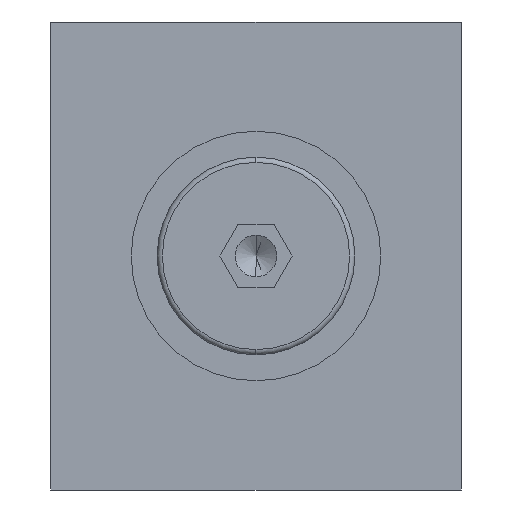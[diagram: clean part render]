
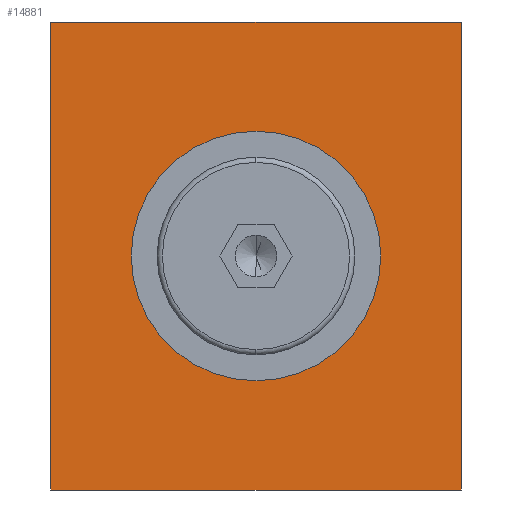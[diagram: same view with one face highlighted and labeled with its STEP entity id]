
A CAD part, left-side view. The second image highlights one B-rep face of the part: STEP entity #14881.
In plain terms, the highlighted planar face has unit normal (-1, 0, 0).
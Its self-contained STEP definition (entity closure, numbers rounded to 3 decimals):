
#116 = CARTESIAN_POINT ( 'NONE',  ( 0., 19.75, -22.5 ) ) ;
#220 = CARTESIAN_POINT ( 'NONE',  ( 0., 0., 12. ) ) ;
#393 = EDGE_CURVE ( 'NONE', #2130, #10465, #2268, .T. ) ;
#1250 = CARTESIAN_POINT ( 'NONE',  ( 0., 19.75, -22.5 ) ) ;
#1251 = ORIENTED_EDGE ( 'NONE', *, *, #18319, .F. ) ;
#1266 = VERTEX_POINT ( 'NONE', #3324 ) ;
#1679 = DIRECTION ( 'NONE',  ( 0., 0., 1. ) ) ;
#1683 = DIRECTION ( 'NONE',  ( -1., 0., 0. ) ) ;
#2105 = EDGE_LOOP ( 'NONE', ( #18277, #16186, #19727, #1251 ) ) ;
#2130 = VERTEX_POINT ( 'NONE', #11451 ) ;
#2268 = LINE ( 'NONE', #3546, #6464 ) ;
#3223 = EDGE_CURVE ( 'NONE', #5537, #1266, #10869, .T. ) ;
#3324 = CARTESIAN_POINT ( 'NONE',  ( 0., 0., -12. ) ) ;
#3546 = CARTESIAN_POINT ( 'NONE',  ( 0., -19.75, 22.5 ) ) ;
#4757 = DIRECTION ( 'NONE',  ( 0., 0., 1. ) ) ;
#5144 = DIRECTION ( 'NONE',  ( 0., 0., -1. ) ) ;
#5188 = EDGE_LOOP ( 'NONE', ( #9023, #8061 ) ) ;
#5537 = VERTEX_POINT ( 'NONE', #220 ) ;
#6464 = VECTOR ( 'NONE', #5144, 1000. ) ;
#7793 = LINE ( 'NONE', #19144, #19897 ) ;
#7851 = DIRECTION ( 'NONE',  ( -1., 0., 0. ) ) ;
#8061 = ORIENTED_EDGE ( 'NONE', *, *, #15754, .F. ) ;
#8761 = VERTEX_POINT ( 'NONE', #1250 ) ;
#9023 = ORIENTED_EDGE ( 'NONE', *, *, #3223, .F. ) ;
#10319 = CARTESIAN_POINT ( 'NONE',  ( 0., 19.75, 22.5 ) ) ;
#10465 = VERTEX_POINT ( 'NONE', #17218 ) ;
#10869 = CIRCLE ( 'NONE', #14354, 12. ) ;
#11137 = DIRECTION ( 'NONE',  ( -1., 0., 0. ) ) ;
#11145 = CARTESIAN_POINT ( 'NONE',  ( 0., 0., 0. ) ) ;
#11451 = CARTESIAN_POINT ( 'NONE',  ( 0., -19.75, 22.5 ) ) ;
#11943 = CIRCLE ( 'NONE', #14411, 12. ) ;
#12227 = VERTEX_POINT ( 'NONE', #10319 ) ;
#12351 = CARTESIAN_POINT ( 'NONE',  ( 0., -19.75, -22.5 ) ) ;
#12738 = DIRECTION ( 'NONE',  ( 0., 0., 1. ) ) ;
#12874 = EDGE_CURVE ( 'NONE', #10465, #8761, #13982, .T. ) ;
#13567 = AXIS2_PLACEMENT_3D ( 'NONE', #116, #11137, #1679 ) ;
#13942 = DIRECTION ( 'NONE',  ( 0., 1., 0. ) ) ;
#13947 = VECTOR ( 'NONE', #4757, 1000. ) ;
#13982 = LINE ( 'NONE', #12351, #17698 ) ;
#14235 = PLANE ( 'NONE',  #13567 ) ;
#14354 = AXIS2_PLACEMENT_3D ( 'NONE', #17292, #7851, #18910 ) ;
#14411 = AXIS2_PLACEMENT_3D ( 'NONE', #11145, #1683, #12738 ) ;
#14452 = LINE ( 'NONE', #15791, #13947 ) ;
#14881 = ADVANCED_FACE ( 'NONE', ( #18219, #14989 ), #14235, .T. ) ;
#14989 = FACE_OUTER_BOUND ( 'NONE', #2105, .T. ) ;
#15754 = EDGE_CURVE ( 'NONE', #1266, #5537, #11943, .T. ) ;
#15791 = CARTESIAN_POINT ( 'NONE',  ( 0., 19.75, 22.5 ) ) ;
#16022 = DIRECTION ( 'NONE',  ( 0., -1., 0. ) ) ;
#16186 = ORIENTED_EDGE ( 'NONE', *, *, #393, .F. ) ;
#17218 = CARTESIAN_POINT ( 'NONE',  ( 0., -19.75, -22.5 ) ) ;
#17292 = CARTESIAN_POINT ( 'NONE',  ( 0., 0., 0. ) ) ;
#17698 = VECTOR ( 'NONE', #13942, 1000. ) ;
#18219 = FACE_BOUND ( 'NONE', #5188, .T. ) ;
#18277 = ORIENTED_EDGE ( 'NONE', *, *, #12874, .F. ) ;
#18319 = EDGE_CURVE ( 'NONE', #8761, #12227, #14452, .T. ) ;
#18400 = EDGE_CURVE ( 'NONE', #12227, #2130, #7793, .T. ) ;
#18910 = DIRECTION ( 'NONE',  ( 0., 0., 1. ) ) ;
#19144 = CARTESIAN_POINT ( 'NONE',  ( 0., -19.75, 22.5 ) ) ;
#19727 = ORIENTED_EDGE ( 'NONE', *, *, #18400, .F. ) ;
#19897 = VECTOR ( 'NONE', #16022, 1000. ) ;
